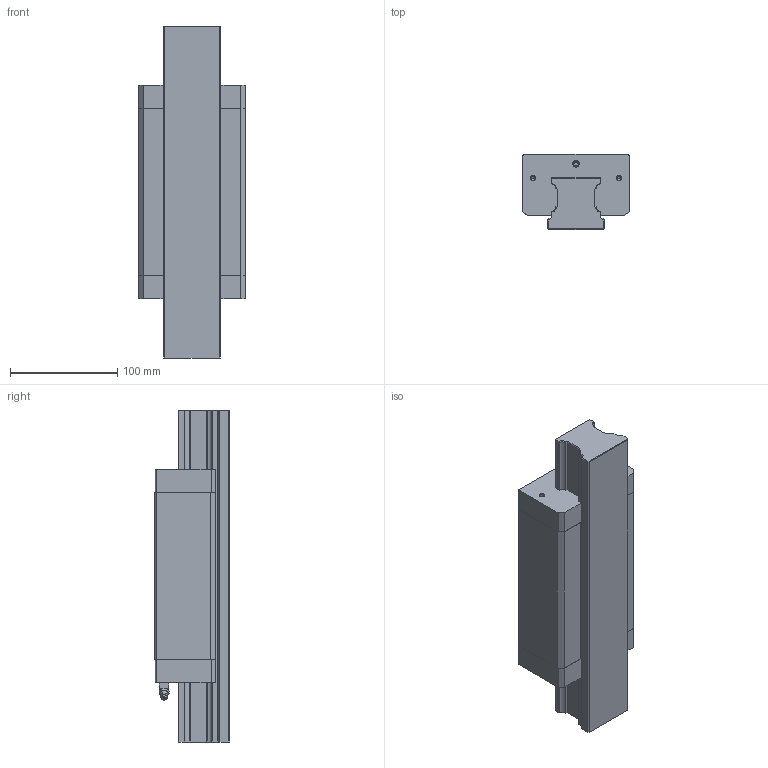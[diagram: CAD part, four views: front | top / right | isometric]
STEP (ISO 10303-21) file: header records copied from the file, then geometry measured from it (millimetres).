
FILE_DESCRIPTION((''),'2;1');
FILE_NAME('KWC_055_SLS_CS__ASM','2021-10-14T07:09:32',('ac91sw'),(''),'CREO PARAMETRIC BY PTC INC, 2020044','CREO PARAMETRIC BY PTC INC, 2020044','');
FILE_SCHEMA(('AUTOMOTIVE_DESIGN { 1 0 10303 214 1 1 1 1 }'));
Length unit declared in the file: millimetre
Products named in the file (7): KWC_055_SLS_CS__SKEL; R169550051; R160150012_Z; KWC_055_SLS_CS__PSF; R343706101_Z; R341700702_Z; KWC_055_SLS_CS__ASM
Assembly tree (7 placements, depth 2):
  KWC_055_SLS_CS__ASM
    KWC_055_SLS_CS__SKEL
    R169550051
    R160150012_Z  x2
    KWC_055_SLS_CS__PSF
    R343706101_Z
    R341700702_Z
Bounding box: 100 x 70 x 309 mm (x, y, z)
Volume: 1307749.9 mm3; surface area: 198555.1 mm2
Topology: 6 solids, 15 shells, 272 faces, 697 edges, 437 vertices
Faces by surface type: plane 154, cylinder 72, cone 42, bspline 2, sphere 2
Entity records: 12730 total; most frequent: CARTESIAN_POINT 1408, DIRECTION 1185, ORIENTED_EDGE 1086, PROPERTY_DEFINITION 820, REPRESENTATION 812, PROPERTY_DEFINITION_REPRESENTATION 812, DESCRIPTIVE_REPRESENTATION_ITEM 760, GENERAL_PROPERTY 752
